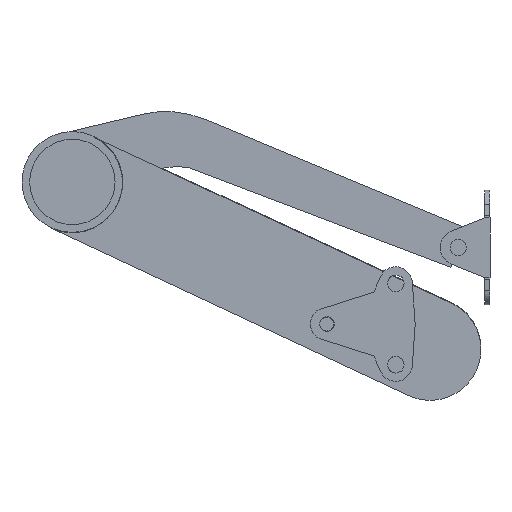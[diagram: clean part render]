
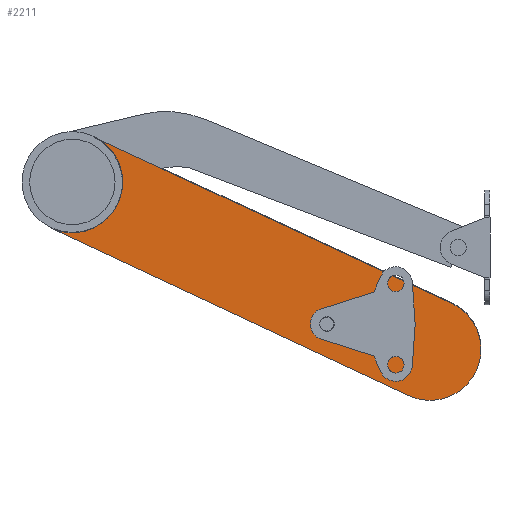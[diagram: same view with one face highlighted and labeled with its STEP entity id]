
A CAD part, left-side view. The second image highlights one B-rep face of the part: STEP entity #2211.
In plain terms, the highlighted planar face has unit normal (-1, 0, 0).
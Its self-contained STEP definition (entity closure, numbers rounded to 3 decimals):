
#2211=ADVANCED_FACE('',(#3904),#3905,.F.);
#3904=FACE_OUTER_BOUND('',#6369,.T.);
#3905=PLANE('',#6370);
#6369=EDGE_LOOP('',(#7765,#7766,#7767,#7768));
#6370=AXIS2_PLACEMENT_3D('',#7769,#7770,#7771);
#7765=ORIENTED_EDGE('',*,*,#10283,.T.);
#7766=ORIENTED_EDGE('',*,*,#10279,.T.);
#7767=ORIENTED_EDGE('',*,*,#10275,.T.);
#7768=ORIENTED_EDGE('',*,*,#10271,.T.);
#7769=CARTESIAN_POINT('',(12.8,53.982,5.481));
#7770=DIRECTION('',(1.0,0.0,0.0));
#7771=DIRECTION('',(0.0,0.0,-1.0));
#10271=EDGE_CURVE('',#11635,#11633,#11636,.T.);
#10275=EDGE_CURVE('',#11641,#11635,#11642,.T.);
#10279=EDGE_CURVE('',#11647,#11641,#11648,.T.);
#10283=EDGE_CURVE('',#11633,#11647,#11652,.T.);
#11633=VERTEX_POINT('',#12464);
#11635=VERTEX_POINT('',#12467);
#11636=CIRCLE('',#12468,20.);
#11641=VERTEX_POINT('',#12475);
#11642=LINE('',#12476,#12477);
#11647=VERTEX_POINT('',#12483);
#11648=CIRCLE('',#12484,19.781);
#11652=LINE('',#12490,#12491);
#12464=CARTESIAN_POINT('',(12.8,-21.931,-7.85));
#12467=CARTESIAN_POINT('',(12.8,-5.026,-44.102));
#12468=AXIS2_PLACEMENT_3D('',#13571,#13572,#13573);
#12475=CARTESIAN_POINT('',(12.8,135.359,21.603));
#12476=CARTESIAN_POINT('',(12.8,-5.026,-44.102));
#12477=VECTOR('',#13576,1.0);
#12483=CARTESIAN_POINT('',(12.8,118.64,57.456));
#12484=AXIS2_PLACEMENT_3D('',#13581,#13582,#13583);
#12490=CARTESIAN_POINT('',(12.8,118.64,57.456));
#12491=VECTOR('',#13586,1.0);
#13571=CARTESIAN_POINT('',(12.8,-13.478,-25.976));
#13572=DIRECTION('',(-1.0,0.0,0.0));
#13573=DIRECTION('',(0.0,-0.423,0.906));
#13576=DIRECTION('',(0.0,-0.906,-0.424));
#13581=CARTESIAN_POINT('',(12.8,127.131,39.591));
#13582=DIRECTION('',(1.0,0.0,0.0));
#13583=DIRECTION('',(0.0,0.416,-0.909));
#13586=DIRECTION('',(0.0,0.907,0.421));
